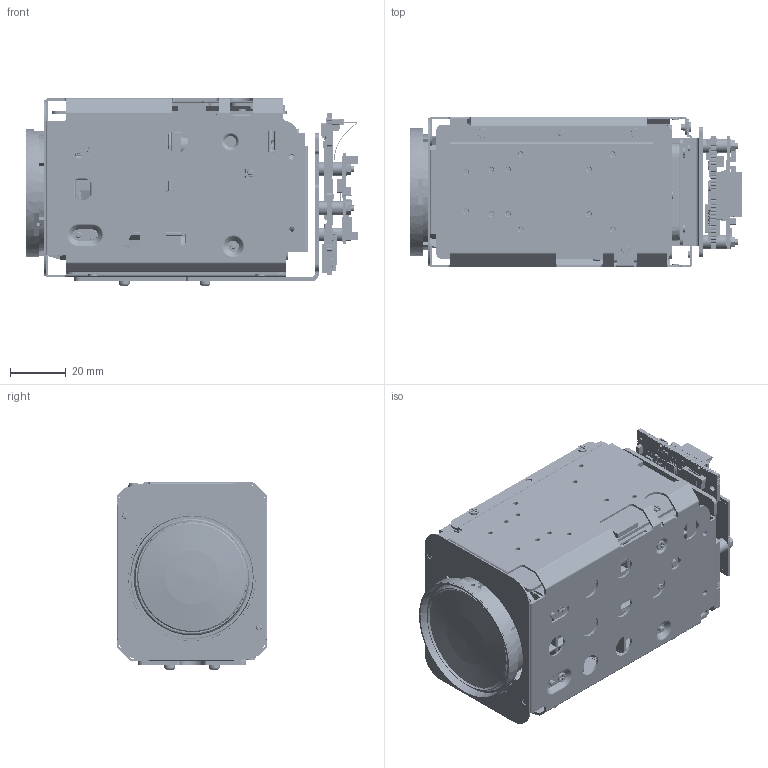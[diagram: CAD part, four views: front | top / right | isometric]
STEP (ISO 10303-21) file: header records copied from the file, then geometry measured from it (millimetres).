
FILE_DESCRIPTION( ( 'Unknown' ), '1' );
FILE_NAME( 'H:/Proj/Ap/AP29_IPLC/Tech/Hw/MM-AP29C01-0123-0101/mm-ap29c01-0123-0101.stp', 'Unknown', ( 'Unknown' ), ( 'Unknown' ), 'PSStep 17.0.49', 'Unknown', ' ' );
FILE_SCHEMA( ( 'AUTOMOTIVE_DESIGN { 1 0 10303 214 1 1 1 1 }' ) );
Length unit declared in the file: millimetre
Products named in the file (636): DF033N0000-129-_X2_5F8C90E893E1_ASM; _X2_5F8C90E893E17B52_X0__1_4; _X2_5F8C90E893E17B52_X0__2_4; _X2_5F8C90E893E17B52_X0__3_4; _X2_30B230FC30C8_X0__1_4; _X2_30B230FC30C8_X0__2_4; _X2_30B230FC30C8_X0__3_4; Lead-7; Open_CASCADE_STEP_translator_6.8_1.2.1; DF033N0000-A08-_X2_5F8C90E893E1_ASM; DF033N0000-Y01-_X2_5B8C621054C1_ASM; _X2_591689B3752830AB30D730C-211; _X2_591689B3752830AB30D730C-363; _X2_591689B3752830AB30D730C-513; _X2_591689B3752830AB30D730C-653; Lead-3; DF033N0000-317-_X2_76EE96A03057_ASM; _X2_906E514930B730FC30C8_X0___X; _X2_7C9877406750_X0___X2_30A230; DF033N0000-900-_X2_30E130A430F3_ASM; _X2_88CF62533061_X0_A_1_4; _X2_88CF62533061_X0_A_2_4; _X2_88CF62533061_X0_A_3_4; _X2_88CF62533061_X0_A_4_4; _X2_88CF62533061_X0_A_5_4; _X2_88CF62533061_X0_A_6_4; _X2_88CF62533061_X0_B_2_4; _X2_88CF62533061_X0_B_3_4; _X2_88CF62533061_X0_B_4_4; _X2_30E130A430F3_X0_FPC-01__X2_; DF033N0000-771-IR_X2_30E130FC30_ASM; _X2_30EC30D030FC_X0_2__X2_306E7; _X2_53D64ED890E8_X0__4; _X2_30A830F330B830F3_X0___X2_30; DF033N0000-A09-_X2_30D530A330EB_ASM; DF033N0000-151-_X2_30D530A330EB; DF02800000-G14-IRC_X2_30D530A33; DF02800000-G15-_X2_30C030DF30FC; DF033N0000-318-_X2_76EE96A03057_ASM; 4_0_X2_6642_X0___X2_7C987740675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
Assembly tree (1554 placements, depth 8):
  Assem1
    G-806-048H  x4
    G-875-322T  x3
    G-977-016Z  x3
    G-161-906B  x3
    flexi-01
    bracket-assy
      bracket-0378-02
      spacer-3mm  x3
      M2x14-CSK  x3
    AS-CAM-40LHD
      000_40LHD_ASM_409_ASM
        355037038_PLATE_BRACKET_180
        360037020_RUBBER_SENSOR_50
        71B687110_PCB_SENSOR_100
        837102062_TS_CH_M2X6_6  x3
        365837060S_SPACER_BRKT_PCB_128
        837002042A_TS_CH_M2X4_2  x5
        PCB_MAIN_40LHD_114
        817002032_MS_CH_M2X3_3  x4
        323037112S_CHASSIS_BOTTOM_126
        323037110S_CHASSIS_TOP_129
        817002032A_MS_CH_M2X3_2  x7
        363037018_SHEET_CHASSIS_5
        DF033N0000-ALLASSY_ASM_17_ASM
          DF033N0000-A01-_X2_5B8C621054C1_ASM
            DF033N0000-127-_X2_4E3B93E17B52
            DF033N0000-401-_X2_30DE30A630F3
            DF033N0000-711-_X2_30A230A430EA
            DF033N0000-731-ZA_X2_30B930C630
            DF033N0000-741-ZB_X2_30B930C630  x2
            DF033N0000-751-F_X2_30B930C630C
            DF016NJ000-176F-M2WASHER_4  x4
            ND011F0-419-QR_X2_30B730FC30EB_
            BT2P1_7X4_0C3C_4  x13
            BT2P1_7X5_0B3C_4  x16
            BT2P1_4X2_5B3C_4  x11
            DF033N0000-Y01-_X2_5B8C621054C1_ASM
              _X2_591689B3752830AB30D730C-211
              _X2_591689B3752830AB30D730C-363
              _X2_591689B3752830AB30D730C-513
              _X2_591689B3752830AB30D730C-653
            DF033N0000-A02-1_X2_7FA4_X0_ASS_ASM
              DF03300000-G01-G01_4
              DF033N0000-121-_1_X2_7FA430EC30
            DF033N0000-A08-_X2_5F8C90E893E1_ASM
              DF033N0000-129-_X2_5F8C90E893E1_ASM
                _X2_5F8C90E893E17B52_X0__1_4
                _X2_5F8C90E893E17B52_X0__2_4
                _X2_5F8C90E893E17B52_X0__3_4
                _X2_30B230FC30C8_X0__1_4
                _X2_30B230FC30C8_X0__2_4
                _X2_30B230FC30C8_X0__3_4
            DF033N0000-A09-_X2_30D530A330EB_ASM
              DF033N0000-151-_X2_30D530A330EB
              DF02800000-G14-IRC_X2_30D530A33
              DF02800000-G15-_X2_30C030DF30FC
            DF033N0000-316-_X2_76EE96A03057_ASM
              1_0_X2_664265B95411_X0___X2_7C9
              1_0_X2_664265B95411_X0___X2_906
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Bounding box: 118.99 x 54 x 67.14 mm (x, y, z)
Volume: 95366.3 mm3; surface area: 196285.1 mm2
Topology: 1159 solids, 1160 shells, 29457 faces, 75152 edges, 47937 vertices
Faces by surface type: plane 18710, cylinder 6497, bspline 1200, cone 1164, torus 1128, sphere 534, extrusion 143, revolution 81
Full cylindrical faces by diameter (mm): 0.041 x1, 0.15 x1, 0.2 x2, 0.25 x1, 0.5 x1, 0.519 x1, 0.6 x8, 0.7 x12, 0.75 x16, 1 x4, 1.1 x1, 1.12 x2, 1.15 x11, 1.2 x9, 1.4 x13, 1.45 x35, 1.5 x67, 1.567 x3, 1.6 x53, 1.7 x38, 1.8 x21, 1.85 x5, 1.9 x8, 2 x69, 2.1 x6, 2.2 x76, 2.4 x49, 2.8 x5, 3 x12, 3.4 x5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
Entity records: 830474 total; most frequent: CARTESIAN_POINT 198861, ORIENTED_EDGE 95919, DIRECTION 95297, EDGE_CURVE 47960, AXIS2_PLACEMENT_3D 32610, VERTEX_POINT 30875, VECTOR 30038, LINE 29927
